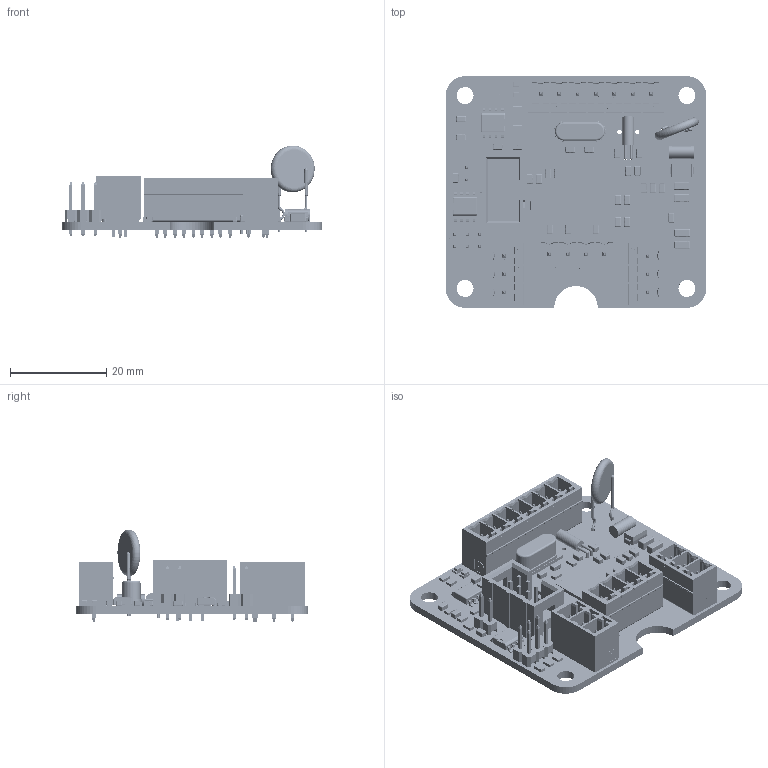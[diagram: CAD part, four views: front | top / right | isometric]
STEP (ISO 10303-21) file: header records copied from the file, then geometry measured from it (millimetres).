
FILE_DESCRIPTION(('Open CASCADE Model'),'2;1');
FILE_NAME('Open CASCADE Shape Model','2014-09-30T08:22:30',('Author'),( 'Open CASCADE'),'Open CASCADE STEP processor 6.2','Open CASCADE 6.2' ,'Unknown');
FILE_SCHEMA(('AUTOMOTIVE_DESIGN { 1 0 10303 214 1 1 1 1 }'));
Length unit declared in the file: millimetre
Products named in the file (132): PCB; Board; C9; C0805-110; 3V3; 1080867280; Cylinder; 5V; BPON; 1080867880; BPOP; C1; C2; C3; C4; C5; C6; C7; C8; C10; C11; C12; C13; C14; C15; C16; C17; C18; C19; C20; C1206-178; C21; C22; C23; C24; C25; C26; C27; C28; C29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
Assembly tree (211 placements, depth 4):
  PCB
    Board
    C9
      C0805-110
    3V3
      1080867280
        Cylinder
    5V
      1080867280
        Cylinder
    BPON
      1080867880
        Cylinder
    BPOP
      1080867880
        Cylinder
    C1
      C0805-110
    C2
      C0805-110
    C3
      C0805-110
    C4
      C0805-110
    C5
      C0805-110
    C6
      C0805-110
    C7
      C0805-110
    C8
      C0805-110
    C10
      C0805-110
    C11
      C0805-110
    C12
      C0805-110
    C13
      C0805-110
    C14
      C0805-110
    C15
      C0805-110
    C16
      C0805-110
    C17
      C0805-110
    C18
      C0805-110
    C19
      C0805-110
    C20
      C1206-178
    C21
      C1206-178
    C22
      C1206-178
    C23
      C1206-178
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Bounding box: 54.02 x 48.02 x 19.24 mm (x, y, z)
Volume: 7434.7 mm3; surface area: 15133.1 mm2
Topology: 49 solids, 5757 shells, 8895 faces, 33564 edges, 30343 vertices
Faces by surface type: bspline 4400, plane 3840, cylinder 519, sphere 71, cone 38, torus 27
Full cylindrical faces by diameter (mm): 0.6 x4, 0.7 x16, 0.9 x12, 1 x6, 1.2 x17, 2.4 x1, 3.5 x4
Entity records: 245522 total; most frequent: CARTESIAN_POINT 80364, DIRECTION 23101, LINE 15459, VECTOR 15459, ORIENTED_EDGE 14704, PCURVE 14704, DEFINITIONAL_REPRESENTATION 14704, EDGE_CURVE 8254
